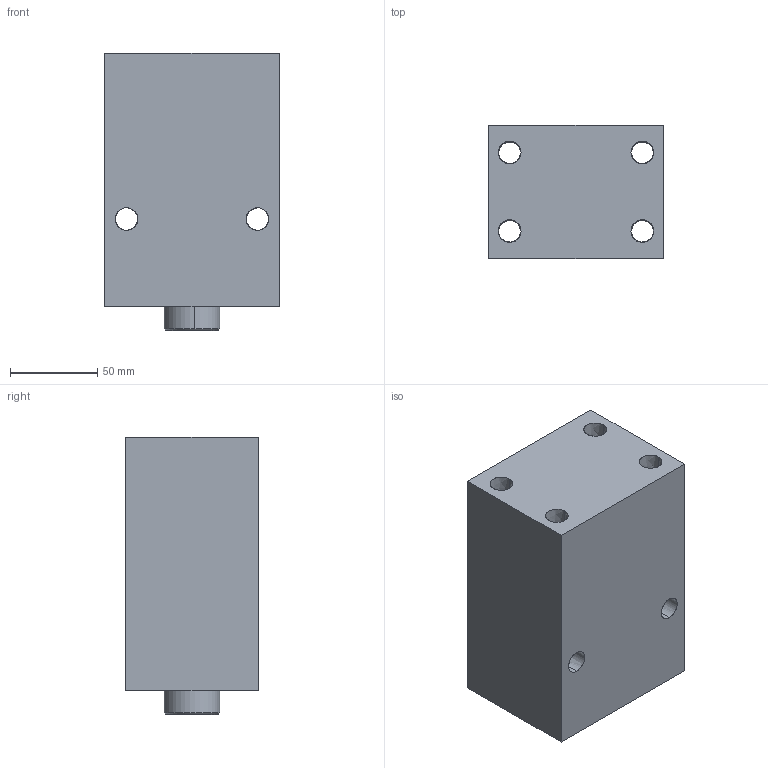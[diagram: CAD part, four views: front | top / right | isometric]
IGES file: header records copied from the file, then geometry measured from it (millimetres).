
Start section: SolidWorks IGES file using analytic representation for surfaces
Global section: file name: D:\karuppas\Clasp\3D model\Block cylinder B01C-Female thread\B01C-475F\Block cylinder B01C-475F.IGS; native system: SolidWorks 2017; preprocessor: SolidWorks 2017; author: pc; date: 220710.000133; units: millimetre
Bounding box: 100 x 76 x 159 mm (x, y, z)
Surface area: 112221.3 mm2 (no closed solid volume)
Topology: 0 solids, 0 shells, 217 faces, 3798 edges, 3792 vertices
Faces by surface type: bspline 177, revolution 40
